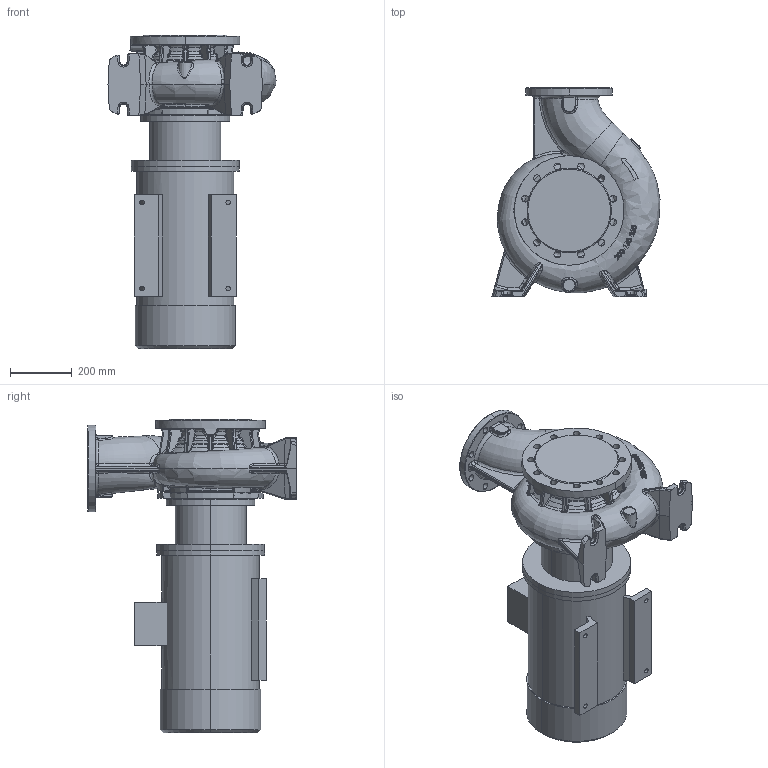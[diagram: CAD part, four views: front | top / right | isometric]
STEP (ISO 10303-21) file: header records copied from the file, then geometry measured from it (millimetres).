
FILE_DESCRIPTION (( 'STEP AP214' ), '1' );
FILE_NAME ('KRM 200-150-250-4-22.STEP', '2026-04-17T12:15:23', ( '' ), ( '' ), 'SwSTEP 2.0', 'SolidWorks 2016', '' );
FILE_SCHEMA (( 'AUTOMOTIVE_DESIGN' ));
Length unit declared in the file: millimetre
Products named in the file (1): KRM 200-150-250-4-22
Bounding box: 544.3 x 680 x 1015.8 mm (x, y, z)
Volume: 101594826 mm3; surface area: 2852483.1 mm2
Topology: 8 solids, 8 shells, 1483 faces, 3639 edges, 2173 vertices
Faces by surface type: bspline 661, cylinder 291, plane 263, torus 147, cone 99, sphere 22
Entity records: 148888 total; most frequent: CARTESIAN_POINT 102634, ORIENTED_EDGE 7234, DIRECTION 4971, EDGE_CURVE 3617, VERTEX_POINT 2173, AXIS2_PLACEMENT_3D 2117, EDGE_LOOP 1554, UNCERTAINTY_MEASURE_WITH_UNIT 1493
